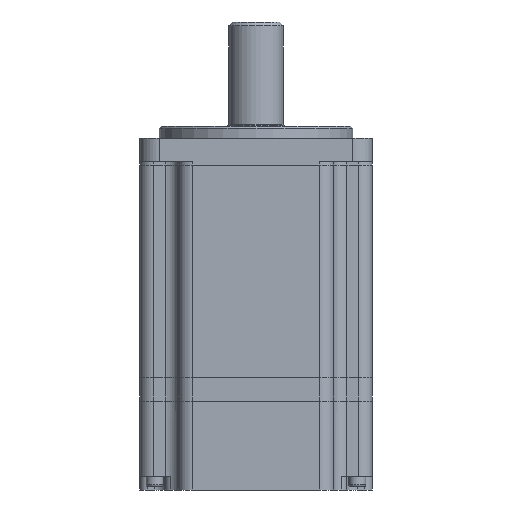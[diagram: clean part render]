
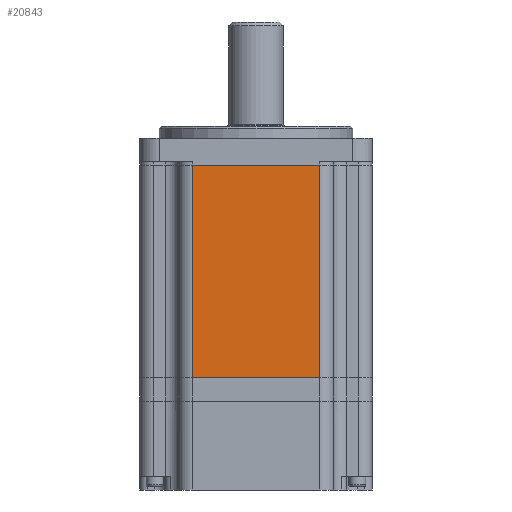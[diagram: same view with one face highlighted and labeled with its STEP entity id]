
A CAD part, front view. The second image highlights one B-rep face of the part: STEP entity #20843.
In plain terms, the highlighted planar face has unit normal (0, -1, 0).
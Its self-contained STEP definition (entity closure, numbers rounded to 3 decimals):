
#423 = EDGE_LOOP ( 'NONE', ( #11126, #3693, #19607, #30755 ) ) ;
#3693 = ORIENTED_EDGE ( 'NONE', *, *, #10737, .T. ) ;
#4230 = LINE ( 'NONE', #16835, #34421 ) ;
#4865 = CARTESIAN_POINT ( 'NONE',  ( -16.5, -30., -56. ) ) ;
#5090 = EDGE_CURVE ( 'NONE', #14601, #12295, #11854, .T. ) ;
#8529 = LINE ( 'NONE', #34151, #30947 ) ;
#10070 = EDGE_CURVE ( 'NONE', #23083, #28980, #8529, .T. ) ;
#10737 = EDGE_CURVE ( 'NONE', #14601, #23083, #23129, .T. ) ;
#11126 = ORIENTED_EDGE ( 'NONE', *, *, #5090, .F. ) ;
#11182 = CARTESIAN_POINT ( 'NONE',  ( 20., -30., -56. ) ) ;
#11854 = LINE ( 'NONE', #18169, #34294 ) ;
#12295 = VERTEX_POINT ( 'NONE', #4865 ) ;
#13213 = CARTESIAN_POINT ( 'NONE',  ( 16.5, -30., -1. ) ) ;
#14601 = VERTEX_POINT ( 'NONE', #36931 ) ;
#15209 = EDGE_CURVE ( 'NONE', #28980, #12295, #4230, .T. ) ;
#16835 = CARTESIAN_POINT ( 'NONE',  ( -16.5, -30., -56. ) ) ;
#16855 = FACE_OUTER_BOUND ( 'NONE', #423, .T. ) ;
#17051 = DIRECTION ( 'NONE',  ( 0., 1., 0. ) ) ;
#18169 = CARTESIAN_POINT ( 'NONE',  ( 20., -30., -56. ) ) ;
#18974 = CARTESIAN_POINT ( 'NONE',  ( -16.5, -30., -1. ) ) ;
#19555 = DIRECTION ( 'NONE',  ( -1., 0., 0. ) ) ;
#19607 = ORIENTED_EDGE ( 'NONE', *, *, #10070, .T. ) ;
#20001 = DIRECTION ( 'NONE',  ( 0., 0., 1. ) ) ;
#20843 = ADVANCED_FACE ( 'NONE', ( #16855 ), #34573, .F. ) ;
#22235 = VECTOR ( 'NONE', #20001, 1000. ) ;
#23083 = VERTEX_POINT ( 'NONE', #13213 ) ;
#23129 = LINE ( 'NONE', #37676, #22235 ) ;
#25527 = DIRECTION ( 'NONE',  ( 0., 0., -1. ) ) ;
#26186 = AXIS2_PLACEMENT_3D ( 'NONE', #11182, #17051, #37516 ) ;
#28980 = VERTEX_POINT ( 'NONE', #18974 ) ;
#30755 = ORIENTED_EDGE ( 'NONE', *, *, #15209, .T. ) ;
#30947 = VECTOR ( 'NONE', #19555, 1000. ) ;
#34151 = CARTESIAN_POINT ( 'NONE',  ( 20., -30., -1. ) ) ;
#34294 = VECTOR ( 'NONE', #35687, 1000. ) ;
#34421 = VECTOR ( 'NONE', #25527, 1000. ) ;
#34573 = PLANE ( 'NONE',  #26186 ) ;
#35687 = DIRECTION ( 'NONE',  ( -1., 0., 0. ) ) ;
#36931 = CARTESIAN_POINT ( 'NONE',  ( 16.5, -30., -56. ) ) ;
#37516 = DIRECTION ( 'NONE',  ( 0., 0., 1. ) ) ;
#37676 = CARTESIAN_POINT ( 'NONE',  ( 16.5, -30., -56. ) ) ;
